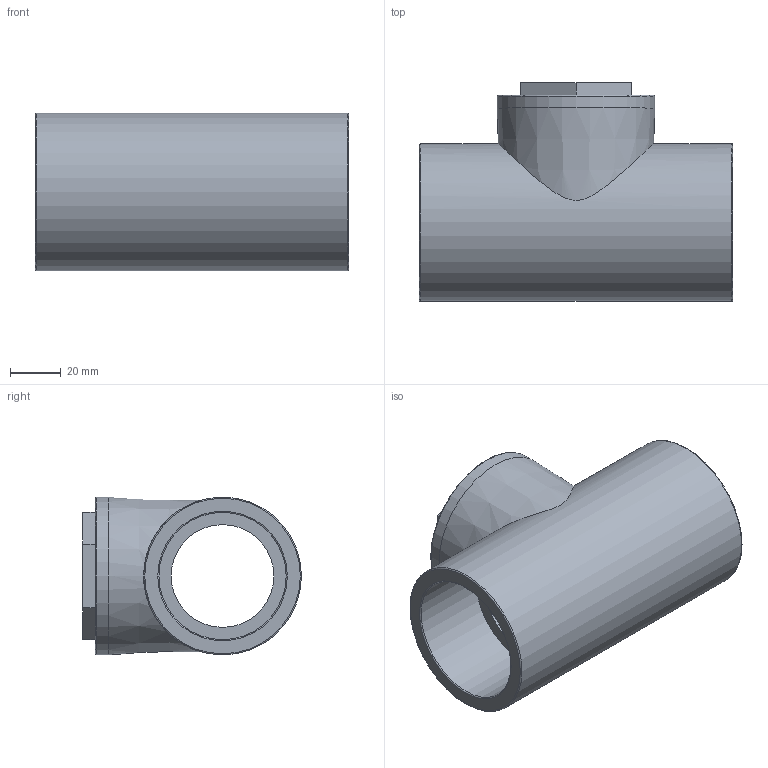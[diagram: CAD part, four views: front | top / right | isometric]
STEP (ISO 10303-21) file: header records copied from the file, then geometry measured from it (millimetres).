
FILE_DESCRIPTION(/* description */ ('PLASSON CHECK VALVE T-CLAPPERALVE-CEMENT 50'),/* implementation_level */ '2;1');
FILE_NAME(/* name */ 'C:\Dropbox\KIMPROJECTS-Inventor\99-16-3568-Processing\PVC Catalog 2017\050408\050408050.ipt.stp',/* time_stamp */ '2017-12-07T15:55:25+02:00',/* author */ ('KIM'),/* organization */ (''),/* preprocessor_version */ 'ST-DEVELOPER v15.6',/* originating_system */ 'Autodesk Inventor 2015',/* authorisation */ '');
FILE_SCHEMA (('AUTOMOTIVE_DESIGN { 1 0 10303 214 3 1 1 }'));
Length unit declared in the file: millimetre
Products named in the file (1): 050408050
Bounding box: 123 x 86 x 62 mm (x, y, z)
Volume: 248970 mm3; surface area: 50574.8 mm2
Topology: 1 solids, 1 shells, 23 faces, 48 edges, 30 vertices
Faces by surface type: plane 12, cylinder 5, torus 5, cone 1
Full cylindrical faces by diameter (mm): 40.361 x1, 50 x2, 62 x2
Entity records: 630 total; most frequent: CARTESIAN_POINT 159, DIRECTION 96, ORIENTED_EDGE 68, EDGE_LOOP 40, AXIS2_PLACEMENT_3D 39, EDGE_CURVE 34, VERTEX_POINT 28, FACE_OUTER_BOUND 23
